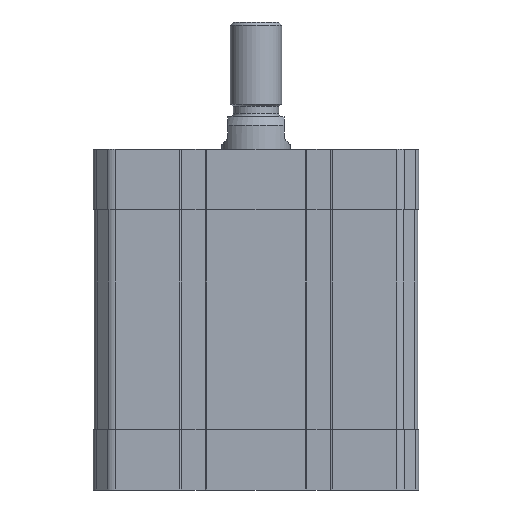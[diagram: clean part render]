
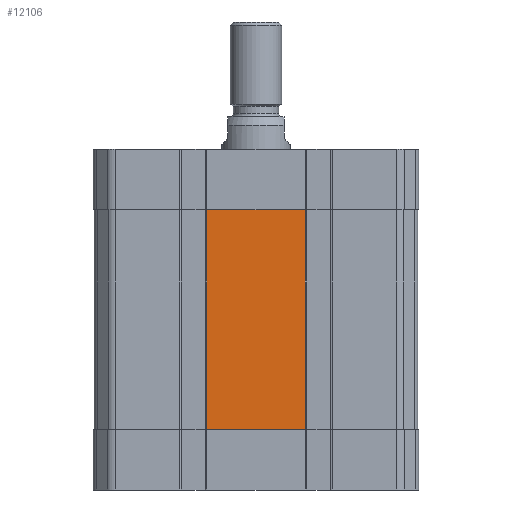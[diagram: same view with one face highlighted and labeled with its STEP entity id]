
A CAD part, left-side view. The second image highlights one B-rep face of the part: STEP entity #12106.
In plain terms, the highlighted planar face has unit normal (-1, 0, 0).
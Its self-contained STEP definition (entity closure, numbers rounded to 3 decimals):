
#3388 = FACE_OUTER_BOUND ( 'NONE', #30538, .T. ) ;
#3520 = CARTESIAN_POINT ( 'NONE',  ( -37.5, 11.375, -14. ) ) ;
#3580 = LINE ( 'NONE', #4619, #33033 ) ;
#3583 = DIRECTION ( 'NONE',  ( 0., 0., -1. ) ) ;
#3851 = ORIENTED_EDGE ( 'NONE', *, *, #9012, .T. ) ;
#4619 = CARTESIAN_POINT ( 'NONE',  ( -37.5, -11.375, -65. ) ) ;
#4714 = CARTESIAN_POINT ( 'NONE',  ( -37.5, 11.375, -65. ) ) ;
#5547 = ORIENTED_EDGE ( 'NONE', *, *, #9235, .F. ) ;
#6108 = CARTESIAN_POINT ( 'NONE',  ( -37.5, -11.375, -14. ) ) ;
#7077 = VERTEX_POINT ( 'NONE', #4714 ) ;
#9012 = EDGE_CURVE ( 'NONE', #24519, #7077, #14900, .T. ) ;
#9235 = EDGE_CURVE ( 'NONE', #24519, #22885, #23086, .T. ) ;
#11181 = DIRECTION ( 'NONE',  ( 0., 0., -1. ) ) ;
#12106 = ADVANCED_FACE ( 'NONE', ( #3388 ), #15614, .F. ) ;
#12841 = CARTESIAN_POINT ( 'NONE',  ( -37.5, -11.375, -65. ) ) ;
#13997 = LINE ( 'NONE', #6108, #35649 ) ;
#14321 = EDGE_CURVE ( 'NONE', #33971, #7077, #3580, .T. ) ;
#14889 = CARTESIAN_POINT ( 'NONE',  ( -37.5, -11.375, -14. ) ) ;
#14900 = LINE ( 'NONE', #19254, #34409 ) ;
#15614 = PLANE ( 'NONE',  #17479 ) ;
#17444 = VECTOR ( 'NONE', #20633, 1000. ) ;
#17479 = AXIS2_PLACEMENT_3D ( 'NONE', #26891, #29457, #27141 ) ;
#19254 = CARTESIAN_POINT ( 'NONE',  ( -37.5, 11.375, -14. ) ) ;
#20633 = DIRECTION ( 'NONE',  ( 0., -1., 0. ) ) ;
#20885 = DIRECTION ( 'NONE',  ( 0., 1., 0. ) ) ;
#22787 = CARTESIAN_POINT ( 'NONE',  ( -37.5, 37.5, -14. ) ) ;
#22885 = VERTEX_POINT ( 'NONE', #14889 ) ;
#23086 = LINE ( 'NONE', #22787, #17444 ) ;
#24519 = VERTEX_POINT ( 'NONE', #3520 ) ;
#26891 = CARTESIAN_POINT ( 'NONE',  ( -37.5, 37.5, -14. ) ) ;
#27141 = DIRECTION ( 'NONE',  ( 0., 0., 1. ) ) ;
#28771 = ORIENTED_EDGE ( 'NONE', *, *, #31488, .F. ) ;
#29457 = DIRECTION ( 'NONE',  ( 1., 0., 0. ) ) ;
#30538 = EDGE_LOOP ( 'NONE', ( #3851, #33666, #28771, #5547 ) ) ;
#31488 = EDGE_CURVE ( 'NONE', #22885, #33971, #13997, .T. ) ;
#33033 = VECTOR ( 'NONE', #20885, 1000. ) ;
#33666 = ORIENTED_EDGE ( 'NONE', *, *, #14321, .F. ) ;
#33971 = VERTEX_POINT ( 'NONE', #12841 ) ;
#34409 = VECTOR ( 'NONE', #11181, 1000. ) ;
#35649 = VECTOR ( 'NONE', #3583, 1000. ) ;
